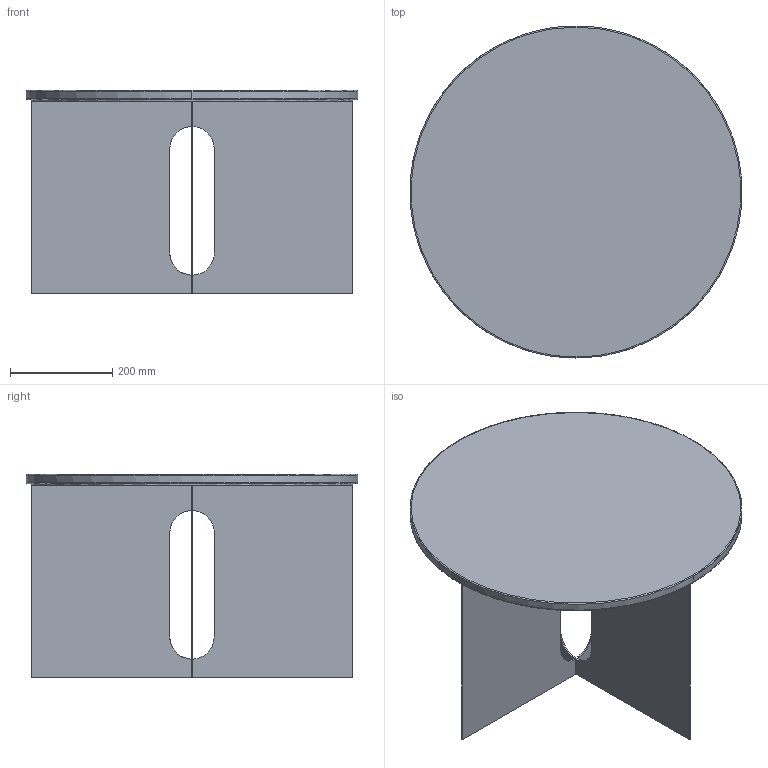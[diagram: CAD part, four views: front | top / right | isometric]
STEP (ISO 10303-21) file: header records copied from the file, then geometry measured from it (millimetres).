
FILE_DESCRIPTION(/* description */ (''),/* implementation_level */ '2;1');
FILE_NAME(/* name */ 'Androgyne Side table w. Tabletop',/* time_stamp */ '2024-05-22T14:47:27+02:00',/* author */ (''),/* organization */ (''),/* preprocessor_version */ 'ST-DEVELOPER v16.5',/* originating_system */ 'Rhino 7.31',/* authorisation */ '');
FILE_SCHEMA (('AUTOMOTIVE_DESIGN'));
Length unit declared in the file: millimetre
Products named in the file (1): Document
Bounding box: 649.45 x 650 x 398 mm (x, y, z)
Volume: 8190575 mm3; surface area: 2191101.6 mm2
Topology: 2 solids, 2 shells, 40 faces, 104 edges, 62 vertices
Faces by surface type: plane 24, cylinder 12, bspline 4
Entity records: 1554 total; most frequent: CARTESIAN_POINT 841, ORIENTED_EDGE 208, EDGE_CURVE 104, B_SPLINE_CURVE_WITH_KNOTS 66, VERTEX_POINT 62, ADVANCED_FACE 40, FACE_OUTER_BOUND 40, EDGE_LOOP 40
